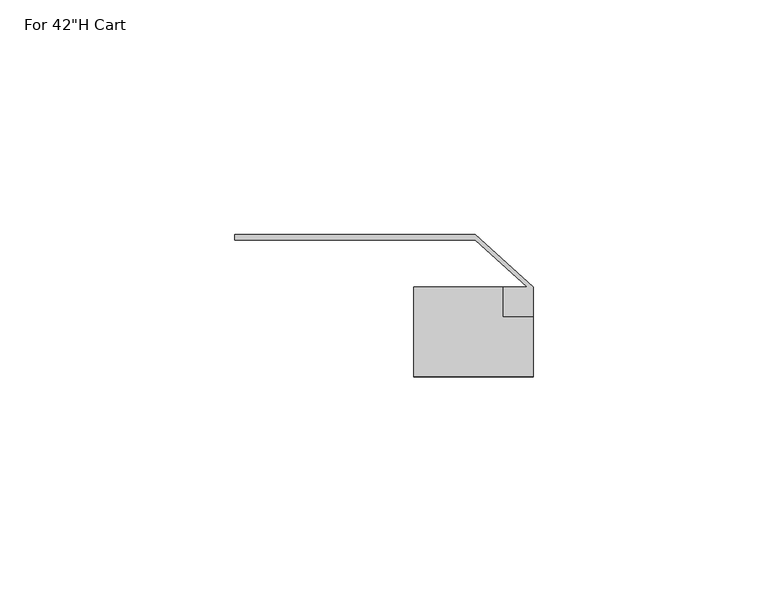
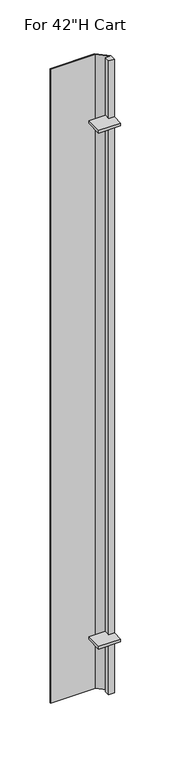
"""IFC4 building model written with IfcOpenShell, lengths in millimetres: furniture geometry."""

from ifc_helpers import new_model, si_unit, origin, place, context, project, spatial, faceted_brep, source, transform, mapped, element, save


def furniture_c669a2ec(model_context):
    return source(origin(), model_context, "Body", "Brep", [
        faceted_brep([(694.3598, 0.22606, 922.3438846), (719.7598, 0.22606, 922.3438846), (719.7598, 12.92606, 922.3438846), (713.4098, 12.92606, 922.3438846), (713.4098, 19.27606, 922.3438846), (694.3598, 19.27606, 922.3438846), (694.3598, 0.22606, 919.1688846), (694.3598, 19.27606, 919.1688846), (713.4098, 19.27606, 919.1688846), (713.4098, 12.92606, 919.1688846), (719.7598, 12.92606, 919.1688846), (719.7598, 0.22606, 919.1688846), (719.7598, 12.92606, 296.8688846), (719.7598, 0.22606, 296.8688846), (719.7598, 0.22606, 293.6938846), (719.7598, 12.92606, 293.6938846), (719.7598, 12.92606, 223.8438846), (719.7598, 19.2740788, 223.8438846), (719.7598, 19.2740788, 992.1938846), (719.7598, 12.92606, 992.1938846), (713.4098, 19.27606, 992.1938846), (718.502321, 19.27606, 992.1938846), (718.502321, 19.27606, 223.8438846), (713.4098, 19.27606, 223.8438846), (713.4098, 19.27606, 293.6938846), (694.3598, 19.27606, 293.6938846), (694.3598, 19.27606, 296.8688846), (713.4098, 19.27606, 296.8688846), (713.4098, 12.92606, 992.1938846), (707.3988997, 30.3865391, 992.1938846), (656.2598, 30.3865391, 992.1938846), (656.2598, 29.2600648, 992.1938846), (707.3966537, 29.2600648, 992.1938846), (707.3966537, 29.2600648, 223.8438846), (656.2598, 29.2600648, 223.8438846), (656.2598, 30.3865391, 223.8438846), (707.3988997, 30.3865391, 223.8438846), (713.4098, 12.92606, 223.8438846), (713.4098, 12.92606, 296.8688846), (713.4098, 12.92606, 293.6938846), (694.3598, 0.22606, 296.8688846), (694.3598, 0.22606, 293.6938846)], [[[0, 1, 2, 3, 4, 5]], [[6, 7, 8, 9, 10, 11]], [[1, 0, 6, 11]], [[1, 11, 10, 12, 13, 14, 15, 16, 17, 18, 19, 2]], [[7, 5, 4, 20, 21, 22, 23, 24, 25, 26, 27, 8]], [[0, 5, 7, 6]], [[20, 28, 19, 18, 29, 30, 31, 32, 21]], [[23, 22, 33, 34, 35, 36, 17, 16, 37]], [[9, 8, 27, 38]], [[28, 20, 4, 3]], [[23, 37, 39, 24]], [[10, 9, 38, 12]], [[19, 28, 3, 2]], [[37, 16, 15, 39]], [[40, 13, 12, 38, 27, 26]], [[41, 25, 24, 39, 15, 14]], [[13, 40, 41, 14]], [[40, 26, 25, 41]], [[29, 18, 17, 36]], [[22, 21, 32, 33]], [[30, 29, 36, 35]], [[31, 30, 35, 34]], [[32, 31, 34, 33]]]),
    ])


if __name__ == "__main__":
    model = new_model("IFC4")
    model_context = context("Model", 3, world=origin())
    ifc_project = project(units=[si_unit("LENGTHUNIT", "METRE", prefix="MILLI")], contexts=[model_context])
    site = spatial("IfcSite", under=ifc_project)
    building = spatial("IfcBuilding", under=site)
    placement = place(None, origin())
    furniture_shape = furniture_c669a2ec(model_context)
    element("IfcFurniture", 1, ObjectType="HermanMiller_Carts_CT701_BreakawayBar : For 42\"H Cart", at=placement, inside=building, context=model_context, shape_type="MappedRepresentation", body=[
        mapped(furniture_shape, transform((0.0, 0.0, 0.0), x_axis=(1.0, 0.0, 0.0), y_axis=(0.0, 1.0, 0.0), z_axis=(0.0, 0.0, 1.0))),
    ])
    save(model, "model.ifc")
